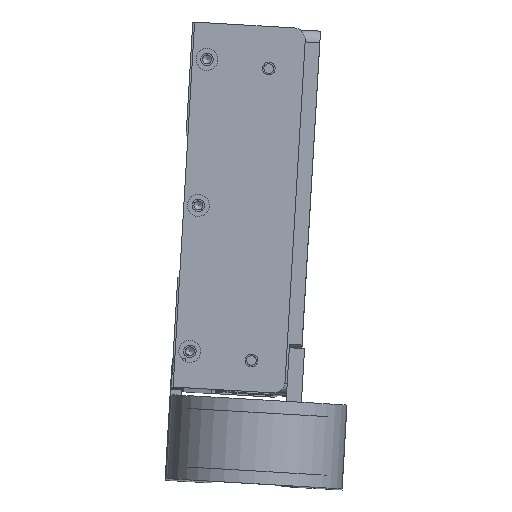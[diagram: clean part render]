
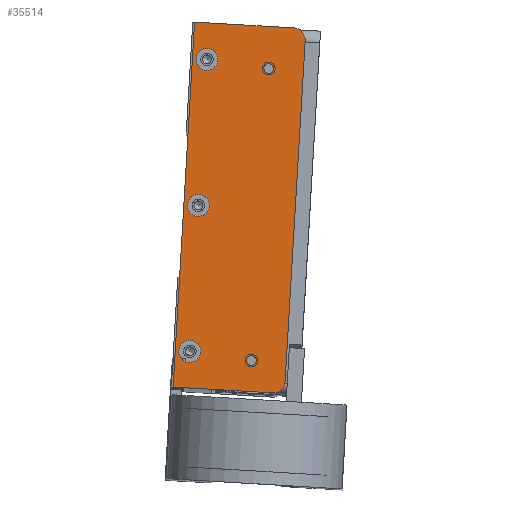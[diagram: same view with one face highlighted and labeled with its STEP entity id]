
A CAD part, top view. The second image highlights one B-rep face of the part: STEP entity #35514.
In plain terms, the highlighted planar face has unit normal (0, 0, 1) as drawn and (0, -1, 0) by its records, which use the part's own axes.
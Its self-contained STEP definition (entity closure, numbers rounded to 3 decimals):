
#1103=PLANE($,#38865);
#2468=FACE_BOUND($,#6785,.T.);
#2469=FACE_BOUND($,#6786,.T.);
#2470=FACE_BOUND($,#6787,.T.);
#2471=FACE_BOUND($,#6788,.T.);
#2472=FACE_BOUND($,#6789,.T.);
#2473=FACE_BOUND($,#6790,.T.);
#6785=EDGE_LOOP($,(#28979));
#6786=EDGE_LOOP($,(#28980));
#6787=EDGE_LOOP($,(#28981));
#6788=EDGE_LOOP($,(#28982));
#6789=EDGE_LOOP($,(#28983));
#6790=EDGE_LOOP($,(#28984,#28985,#28986,#28987,#28988,#28989));
#9286=LINE($,#57636,#12192);
#9289=LINE($,#57652,#12195);
#9290=LINE($,#57654,#12196);
#9291=LINE($,#57656,#12197);
#12192=VECTOR($,#46308,93.65);
#12195=VECTOR($,#46323,27.325);
#12196=VECTOR($,#46324,100.);
#12197=VECTOR($,#46325,27.325);
#15166=CIRCLE($,#38862,3.175);
#15168=CIRCLE($,#38866,3.);
#15169=CIRCLE($,#38867,3.);
#15170=CIRCLE($,#38868,3.);
#15171=CIRCLE($,#38869,1.321);
#15172=CIRCLE($,#38870,1.321);
#15173=CIRCLE($,#38871,3.175);
#17465=VERTEX_POINT($,#57626);
#17466=VERTEX_POINT($,#57627);
#17469=VERTEX_POINT($,#57635);
#17471=VERTEX_POINT($,#57641);
#17472=VERTEX_POINT($,#57643);
#17473=VERTEX_POINT($,#57645);
#17474=VERTEX_POINT($,#57647);
#17475=VERTEX_POINT($,#57649);
#17476=VERTEX_POINT($,#57651);
#17477=VERTEX_POINT($,#57653);
#17478=VERTEX_POINT($,#57655);
#21610=EDGE_CURVE($,#17465,#17466,#15166,.T.);
#21614=EDGE_CURVE($,#17466,#17469,#9286,.T.);
#21617=EDGE_CURVE($,#17471,#17471,#15168,.T.);
#21618=EDGE_CURVE($,#17472,#17472,#15169,.T.);
#21619=EDGE_CURVE($,#17473,#17473,#15170,.T.);
#21620=EDGE_CURVE($,#17474,#17474,#15171,.T.);
#21621=EDGE_CURVE($,#17475,#17475,#15172,.T.);
#21622=EDGE_CURVE($,#17465,#17476,#9289,.T.);
#21623=EDGE_CURVE($,#17476,#17477,#9290,.T.);
#21624=EDGE_CURVE($,#17477,#17478,#9291,.T.);
#21625=EDGE_CURVE($,#17469,#17478,#15173,.T.);
#28979=ORIENTED_EDGE($,*,*,#21617,.T.);
#28980=ORIENTED_EDGE($,*,*,#21618,.T.);
#28981=ORIENTED_EDGE($,*,*,#21619,.T.);
#28982=ORIENTED_EDGE($,*,*,#21620,.T.);
#28983=ORIENTED_EDGE($,*,*,#21621,.T.);
#28984=ORIENTED_EDGE($,*,*,#21610,.F.);
#28985=ORIENTED_EDGE($,*,*,#21622,.T.);
#28986=ORIENTED_EDGE($,*,*,#21623,.T.);
#28987=ORIENTED_EDGE($,*,*,#21624,.T.);
#28988=ORIENTED_EDGE($,*,*,#21625,.F.);
#28989=ORIENTED_EDGE($,*,*,#21614,.F.);
#35514=ADVANCED_FACE($,(#2468,#2469,#2470,#2471,#2472,#2473),#1103,.T.);
#38862=AXIS2_PLACEMENT_3D($,#57628,#46300,#46301);
#38865=AXIS2_PLACEMENT_3D($,#57640,#46311,#46312);
#38866=AXIS2_PLACEMENT_3D($,#57642,#46313,#46314);
#38867=AXIS2_PLACEMENT_3D($,#57644,#46315,#46316);
#38868=AXIS2_PLACEMENT_3D($,#57646,#46317,#46318);
#38869=AXIS2_PLACEMENT_3D($,#57648,#46319,#46320);
#38870=AXIS2_PLACEMENT_3D($,#57650,#46321,#46322);
#38871=AXIS2_PLACEMENT_3D($,#57657,#46326,#46327);
#46300=DIRECTION('center_axis',(0.,1.,0.));
#46301=DIRECTION('ref_axis',(0.707,0.,0.707));
#46308=DIRECTION($,(0.,0.,-1.));
#46311=DIRECTION('center_axis',(0.,-1.,0.));
#46312=DIRECTION('ref_axis',(0.,0.,-1.));
#46313=DIRECTION('center_axis',(0.,1.,0.));
#46314=DIRECTION('ref_axis',(1.,0.,0.));
#46315=DIRECTION('center_axis',(0.,1.,0.));
#46316=DIRECTION('ref_axis',(1.,0.,0.));
#46317=DIRECTION('center_axis',(0.,1.,0.));
#46318=DIRECTION('ref_axis',(1.,0.,0.));
#46319=DIRECTION('center_axis',(0.,1.,0.));
#46320=DIRECTION('ref_axis',(1.,0.,0.));
#46321=DIRECTION('center_axis',(0.,1.,0.));
#46322=DIRECTION('ref_axis',(1.,0.,0.));
#46323=DIRECTION($,(-1.,0.,0.));
#46324=DIRECTION($,(0.,0.,-1.));
#46325=DIRECTION($,(1.,0.,0.));
#46326=DIRECTION('center_axis',(0.,1.,0.));
#46327=DIRECTION('ref_axis',(0.707,0.,-0.707));
#57626=CARTESIAN_POINT('',(12.075,-2.5,50.));
#57627=CARTESIAN_POINT('',(15.25,-2.5,46.825));
#57628=CARTESIAN_POINT('Origin',(12.075,-2.5,46.825));
#57635=CARTESIAN_POINT('',(15.25,-2.5,-46.825));
#57636=CARTESIAN_POINT($,(15.25,-2.5,0.));
#57640=CARTESIAN_POINT('Origin',(15.25,-2.5,0.));
#57641=CARTESIAN_POINT('',(-8.25,-2.5,0.));
#57642=CARTESIAN_POINT('Origin',(-11.25,-2.5,0.));
#57643=CARTESIAN_POINT('',(-8.25,-2.5,40.));
#57644=CARTESIAN_POINT('Origin',(-11.25,-2.5,40.));
#57645=CARTESIAN_POINT('',(-8.25,-2.5,-40.));
#57646=CARTESIAN_POINT('Origin',(-11.25,-2.5,-40.));
#57647=CARTESIAN_POINT('',(7.071,-2.5,38.5));
#57648=CARTESIAN_POINT('Origin',(5.75,-2.5,38.5));
#57649=CARTESIAN_POINT('',(7.037,-2.5,-41.5));
#57650=CARTESIAN_POINT('Origin',(5.716,-2.5,-41.5));
#57651=CARTESIAN_POINT('',(-15.25,-2.5,50.));
#57652=CARTESIAN_POINT($,(15.25,-2.5,50.));
#57653=CARTESIAN_POINT('',(-15.25,-2.5,-50.));
#57654=CARTESIAN_POINT($,(-15.25,-2.5,0.));
#57655=CARTESIAN_POINT('',(12.075,-2.5,-50.));
#57656=CARTESIAN_POINT($,(15.25,-2.5,-50.));
#57657=CARTESIAN_POINT('Origin',(12.075,-2.5,-46.825));
